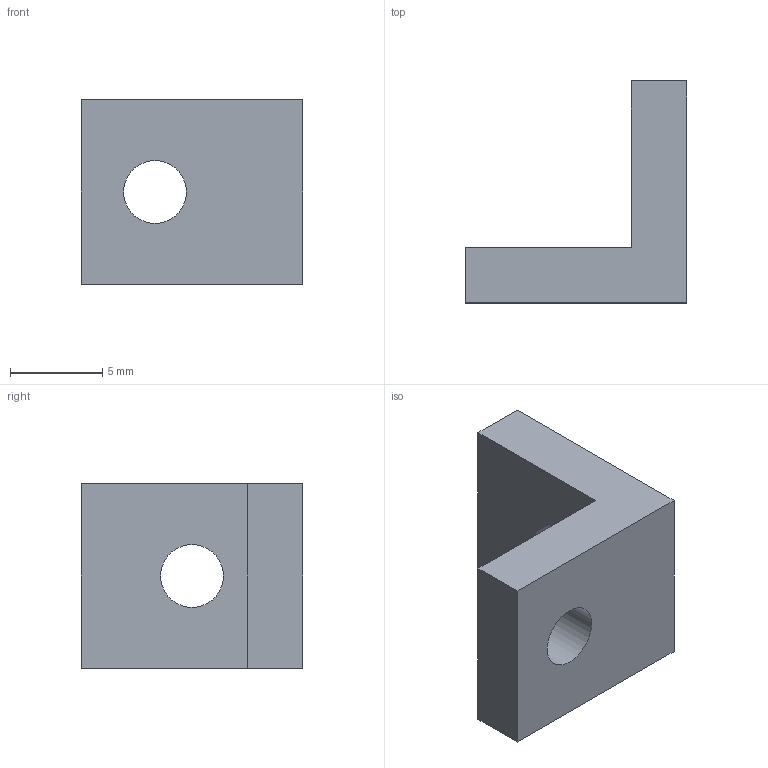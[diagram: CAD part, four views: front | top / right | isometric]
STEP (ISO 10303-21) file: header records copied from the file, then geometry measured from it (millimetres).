
FILE_DESCRIPTION(('Open CASCADE Model'),'2;1');
FILE_NAME('Open CASCADE Shape Model','2026-09-11T00:16:40',('Author'),( 'Open CASCADE'),'Open CASCADE STEP processor 7.9','Open CASCADE 7.9' ,'Unknown');
FILE_SCHEMA(('AUTOMOTIVE_DESIGN { 1 0 10303 214 1 1 1 1 }'));
Length unit declared in the file: millimetre
Products named in the file (1): Open CASCADE STEP translator 7.9 5
Bounding box: 12 x 12 x 10 mm (x, y, z)
Volume: 575.5 mm3; surface area: 633.8 mm2
Topology: 1 solids, 1 shells, 10 faces, 24 edges, 16 vertices
Faces by surface type: plane 8, cylinder 2
Full cylindrical faces by diameter (mm): 3.4 x2
Entity records: 626 total; most frequent: CARTESIAN_POINT 113, DIRECTION 94, LINE 62, VECTOR 62, ORIENTED_EDGE 48, PCURVE 48, DEFINITIONAL_REPRESENTATION 48, EDGE_CURVE 24
